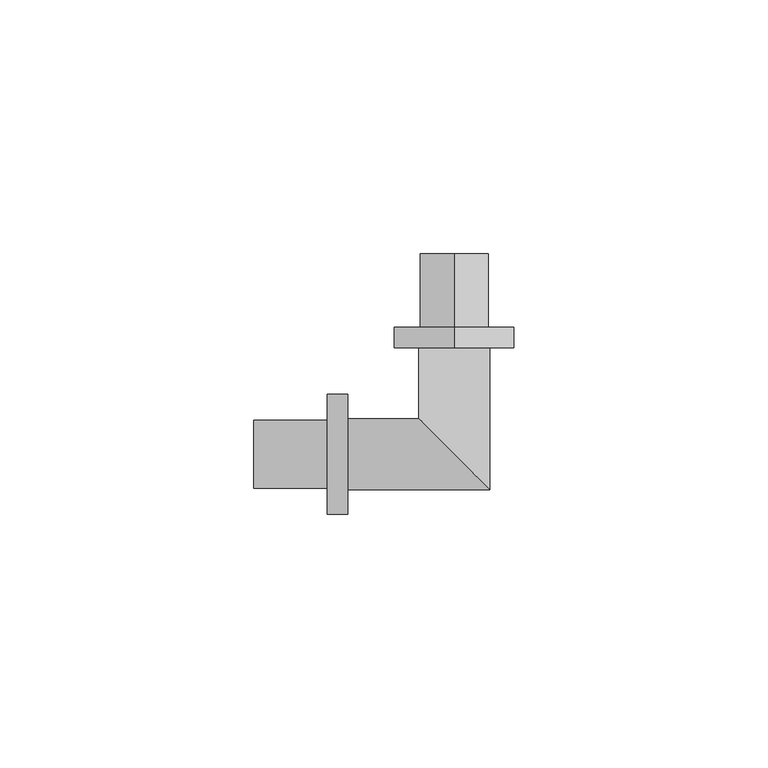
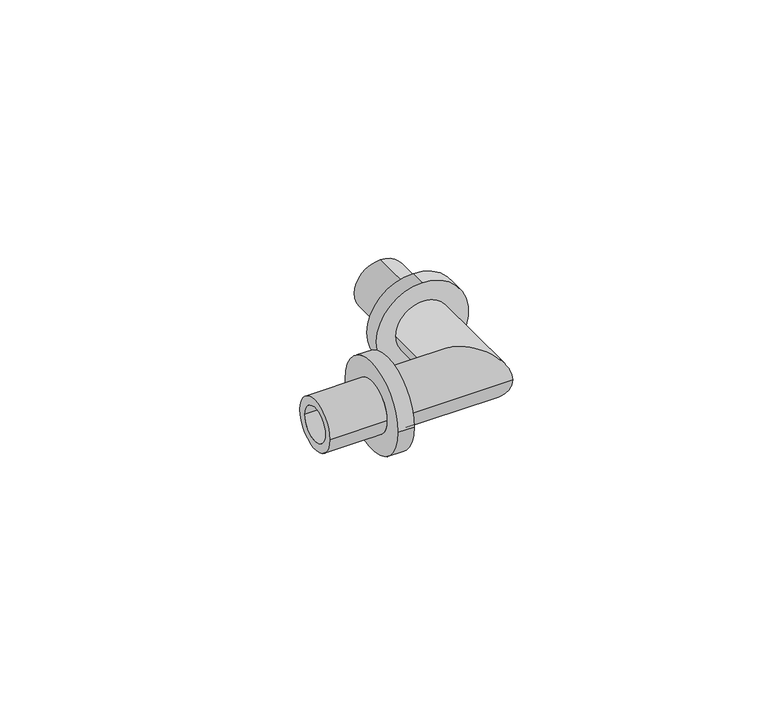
"""IFC4 building model written with IfcOpenShell, lengths in millimetres: pipe fitting geometry, RAUTITAN_Corner_PX : RTI PX C DE."""

from ifc_helpers import new_model, si_unit, frame, origin, place, context, project, spatial, polyline, circle_curve, ellipse_curve, source, transform, mapped, element, save
from ifc_brep_helpers import plane_surface, cylinder_surface, revolved_surface, advanced_brep


def pipe_fitting_495cc192(model_context):
    return source(origin(), model_context, "Body", "AdvancedBrep", [
        advanced_brep(
        [(0.0, 25.0, 11.8), (0.0, 25.0, -11.8), (0.0, 21.0, -11.8), (0.0, 21.0, 11.8), (0.0, 39.5, 6.7), (0.0, 39.5, -6.7), (0.0, 25.0, -6.7), (0.0, 25.0, 6.7), (0.0, 21.0, 4.5), (0.0, 21.0, -4.5), (0.0, 39.5, -4.5), (0.0, 39.5, 4.5)],
        [
            (0, 1, circle_curve(frame((0.0, 25.0, 0.0), z_axis=(0.0, -1.0, 0.0), x_axis=(0.0, 0.0, -1.0)), 11.8)),
            (1, 2),
            (2, 3, circle_curve(frame((0.0, 21.0, 0.0), z_axis=(0.0, 1.0, 0.0), x_axis=(0.0, 0.0, -1.0)), 11.8)),
            (3, 0),
            (4, 5, circle_curve(frame((0.0, 39.5, 0.0), z_axis=(0.0, -1.0, 0.0), x_axis=(0.0, 0.0, -1.0)), 6.7)),
            (5, 6),
            (6, 7, circle_curve(frame((0.0, 25.0, 0.0), z_axis=(0.0, 1.0, 0.0), x_axis=(0.0, 0.0, -1.0)), 6.7)),
            (7, 4),
            (8, 9, circle_curve(frame((0.0, 21.0, 0.0), z_axis=(0.0, -1.0, 0.0), x_axis=(0.0, 0.0, -1.0)), 4.5)),
            (9, 10),
            (10, 11, circle_curve(frame((0.0, 39.5, 0.0), z_axis=(0.0, 1.0, 0.0), x_axis=(0.0, 0.0, -1.0)), 4.5)),
            (11, 8),
            (1, 0, circle_curve(frame((0.0, 25.0, 0.0), z_axis=(0.0, -1.0, 0.0), x_axis=(0.0, 0.0, 1.0)), 11.8)),
            (3, 2, circle_curve(frame((0.0, 21.0, 0.0), z_axis=(0.0, 1.0, 0.0), x_axis=(0.0, 0.0, 1.0)), 11.8)),
            (6, 7, circle_curve(frame((0.0, 25.0, 0.0), z_axis=(0.0, -1.0, 0.0), x_axis=(0.0, 0.0, 1.0)), 6.7)),
            (5, 4, circle_curve(frame((0.0, 39.5, 0.0), z_axis=(0.0, -1.0, 0.0), x_axis=(0.0, 0.0, 1.0)), 6.7)),
            (10, 11, circle_curve(frame((0.0, 39.5, 0.0), z_axis=(0.0, -1.0, 0.0), x_axis=(0.0, 0.0, 1.0)), 4.5)),
            (9, 8, circle_curve(frame((0.0, 21.0, 0.0), z_axis=(0.0, -1.0, 0.0), x_axis=(0.0, 0.0, 1.0)), 4.5)),
        ],
        [
            cylinder_surface(frame((0.0, 21.0, 0.0), z_axis=(0.0, 1.0, 0.0), x_axis=(0.0, 0.0, -1.0)), 11.8),
            cylinder_surface(frame((0.0, 21.0, 0.0), z_axis=(0.0, 1.0, 0.0), x_axis=(0.0, 0.0, -1.0)), 6.7),
            revolved_surface(polyline([(0.0, 39.5, -4.5), (0.0, 21.0, -4.5)]), (0.0, 21.0, 0.0), (0.0, 1.0, 0.0)),
            cylinder_surface(frame((0.0, 21.0, 0.0), z_axis=(0.0, 1.0, 0.0), x_axis=(0.0, 0.0, 1.0)), 11.8),
            plane_surface(frame((0.0, 25.0, 0.0), z_axis=(0.0, 1.0, 0.0), x_axis=(0.0, 0.0, 1.0))),
            cylinder_surface(frame((0.0, 21.0, 0.0), z_axis=(0.0, 1.0, 0.0), x_axis=(0.0, 0.0, 1.0)), 6.7),
            plane_surface(frame((0.0, 39.5, 0.0), z_axis=(0.0, 1.0, 0.0), x_axis=(0.0, 0.0, 1.0))),
            revolved_surface(polyline([(0.0, 39.5, 4.5), (0.0, 21.0, 4.5)]), (0.0, 21.0, 0.0), (0.0, 1.0, 0.0)),
            plane_surface(frame((0.0, 21.0, 0.0), z_axis=(0.0, -1.0, 0.0), x_axis=(0.0, 0.0, 1.0))),
        ],
        [
            (0, [[1, 2, 3, 4]]),
            (1, [[5, 6, 7, 8]]),
            (2, [[9, 10, 11, 12]]),
            (3, [[13, -4, 14, -2]]),
            (4, [[-13, -1], [15, -7]]),
            (5, [[16, -8, -15, -6]]),
            (6, [[-16, -5], [17, -11]]),
            (7, [[18, -12, -17, -10]]),
            (8, [[-14, -3], [-18, -9]]),
        ],
    ),
        advanced_brep(
        [(-25.0, -11.8, 0.0), (-25.0, 11.8, 0.0), (-21.0, 11.8, 0.0), (-21.0, -11.8, 0.0), (-39.5, -6.7, 0.0), (-39.5, 6.7, 0.0), (-25.0, 6.7, 0.0), (-25.0, -6.7, 0.0), (-21.0, -4.5, 0.0), (-21.0, 4.5, 0.0), (-39.5, 4.5, 0.0), (-39.5, -4.5, 0.0)],
        [
            (0, 1, circle_curve(frame((-25.0, 0.0, 0.0), z_axis=(1.0, 0.0, 0.0), x_axis=(0.0, 1.0, 0.0)), 11.8)),
            (1, 2),
            (2, 3, circle_curve(frame((-21.0, 0.0, 0.0), z_axis=(-1.0, 0.0, 0.0), x_axis=(0.0, 1.0, 0.0)), 11.8)),
            (3, 0),
            (4, 5, circle_curve(frame((-39.5, 0.0, 0.0), z_axis=(1.0, 0.0, 0.0), x_axis=(0.0, 1.0, 0.0)), 6.7)),
            (5, 6),
            (6, 7, circle_curve(frame((-25.0, 0.0, 0.0), z_axis=(-1.0, 0.0, 0.0), x_axis=(0.0, 1.0, 0.0)), 6.7)),
            (7, 4),
            (8, 9, circle_curve(frame((-21.0, 0.0, 0.0), z_axis=(1.0, 0.0, 0.0), x_axis=(0.0, 1.0, 0.0)), 4.5)),
            (9, 10),
            (10, 11, circle_curve(frame((-39.5, 0.0, 0.0), z_axis=(-1.0, 0.0, 0.0), x_axis=(0.0, 1.0, 0.0)), 4.5)),
            (11, 8),
            (1, 0, circle_curve(frame((-25.0, 0.0, 0.0), z_axis=(1.0, 0.0, 0.0), x_axis=(0.0, -1.0, 0.0)), 11.8)),
            (3, 2, circle_curve(frame((-21.0, 0.0, 0.0), z_axis=(-1.0, 0.0, 0.0), x_axis=(0.0, -1.0, 0.0)), 11.8)),
            (6, 7, circle_curve(frame((-25.0, 0.0, 0.0), z_axis=(1.0, 0.0, 0.0), x_axis=(0.0, -1.0, 0.0)), 6.7)),
            (5, 4, circle_curve(frame((-39.5, 0.0, 0.0), z_axis=(1.0, 0.0, 0.0), x_axis=(0.0, -1.0, 0.0)), 6.7)),
            (10, 11, circle_curve(frame((-39.5, 0.0, 0.0), z_axis=(1.0, 0.0, 0.0), x_axis=(0.0, -1.0, 0.0)), 4.5)),
            (9, 8, circle_curve(frame((-21.0, 0.0, 0.0), z_axis=(1.0, 0.0, 0.0), x_axis=(0.0, -1.0, 0.0)), 4.5)),
        ],
        [
            cylinder_surface(frame((-21.0, 0.0, 0.0), z_axis=(-1.0, 0.0, 0.0), x_axis=(0.0, 1.0, 0.0)), 11.8),
            cylinder_surface(frame((-21.0, 0.0, 0.0), z_axis=(-1.0, 0.0, 0.0), x_axis=(0.0, 1.0, 0.0)), 6.7),
            revolved_surface(polyline([(-39.5, 4.5, 0.0), (-21.0, 4.5, 0.0)]), (-21.0, 0.0, 0.0), (-1.0, 0.0, 0.0)),
            cylinder_surface(frame((-21.0, 0.0, 0.0), z_axis=(-1.0, 0.0, 0.0), x_axis=(0.0, -1.0, 0.0)), 11.8),
            plane_surface(frame((-25.0, 0.0, 0.0), z_axis=(-1.0, 0.0, 0.0), x_axis=(0.0, -1.0, 0.0))),
            cylinder_surface(frame((-21.0, 0.0, 0.0), z_axis=(-1.0, 0.0, 0.0), x_axis=(0.0, -1.0, 0.0)), 6.7),
            plane_surface(frame((-39.5, 0.0, 0.0), z_axis=(-1.0, 0.0, 0.0), x_axis=(0.0, -1.0, 0.0))),
            revolved_surface(polyline([(-39.5, -4.5, 0.0), (-21.0, -4.5, 0.0)]), (-21.0, 0.0, 0.0), (-1.0, 0.0, 0.0)),
            plane_surface(frame((-21.0, 0.0, 0.0), z_axis=(1.0, 0.0, 0.0), x_axis=(0.0, -1.0, 0.0))),
        ],
        [
            (0, [[1, 2, 3, 4]]),
            (1, [[5, 6, 7, 8]]),
            (2, [[9, 10, 11, 12]]),
            (3, [[13, -4, 14, -2]]),
            (4, [[-13, -1], [15, -7]]),
            (5, [[16, -8, -15, -6]]),
            (6, [[-16, -5], [17, -11]]),
            (7, [[18, -12, -17, -10]]),
            (8, [[-14, -3], [-18, -9]]),
        ],
    ),
        advanced_brep(
        [(-21.0, -7.0, 0.0), (-21.0, 7.0, 0.0), (-21.0, -4.5, 0.0), (-21.0, 4.5, 0.0), (-4.5, 4.5, 0.0), (4.5, -4.5, 0.0), (7.0, 21.0, 0.0), (-7.0, 21.0, 0.0), (4.5, 21.0, 0.0), (-4.5, 21.0, 0.0), (7.0, -7.0, 0.0), (-7.0, 7.0, 0.0)],
        [
            (0, 1, circle_curve(frame((-21.0, 0.0, 0.0), z_axis=(-1.0, 0.0, 0.0), x_axis=(0.0, 1.0, 0.0)), 7.0)),
            (1, 0, circle_curve(frame((-21.0, 0.0, 0.0), z_axis=(-1.0, 0.0, 0.0), x_axis=(0.0, 1.0, 0.0)), 7.0)),
            (2, 3, circle_curve(frame((-21.0, 0.0, 0.0), z_axis=(1.0, 0.0, 0.0), x_axis=(0.0, 1.0, 0.0)), 4.5)),
            (3, 2, circle_curve(frame((-21.0, 0.0, 0.0), z_axis=(1.0, 0.0, 0.0), x_axis=(0.0, 1.0, 0.0)), 4.5)),
            (3, 4),
            (4, 5, ellipse_curve(frame((0.0, 0.0, 0.0), z_axis=(0.707106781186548, 0.7071067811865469, 0.0), x_axis=(0.7071067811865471, -0.7071067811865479, 0.0)), 6.363961, 4.5)),
            (5, 2),
            (5, 4, ellipse_curve(frame((0.0, 0.0, 0.0), z_axis=(0.707106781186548, 0.7071067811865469, 0.0), x_axis=(0.7071067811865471, -0.7071067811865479, 0.0)), 6.363961, 4.5)),
            (6, 7, circle_curve(frame((0.0, 21.0, 0.0), z_axis=(0.0, 1.0, 0.0), x_axis=(-1.0, 0.0, 0.0)), 7.0)),
            (7, 6, circle_curve(frame((0.0, 21.0, 0.0), z_axis=(0.0, 1.0, 0.0), x_axis=(-1.0, 0.0, 0.0)), 7.0)),
            (8, 9, circle_curve(frame((0.0, 21.0, 0.0), z_axis=(0.0, -1.0, 0.0), x_axis=(-1.0, 0.0, 0.0)), 4.5)),
            (9, 8, circle_curve(frame((0.0, 21.0, 0.0), z_axis=(0.0, -1.0, 0.0), x_axis=(-1.0, 0.0, 0.0)), 4.5)),
            (4, 9),
            (8, 5),
            (0, 10),
            (10, 11, ellipse_curve(frame((0.0, 0.0, 0.0), z_axis=(-0.707106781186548, -0.7071067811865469, 0.0), x_axis=(-0.7071067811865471, 0.7071067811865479, 0.0)), 9.8994949, 7.0)),
            (11, 1),
            (11, 10, ellipse_curve(frame((0.0, 0.0, 0.0), z_axis=(-0.707106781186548, -0.7071067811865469, 0.0), x_axis=(-0.7071067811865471, 0.7071067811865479, 0.0)), 9.8994949, 7.0)),
            (10, 6),
            (7, 11),
        ],
        [
            plane_surface(frame((-21.0, 0.0, 0.0), z_axis=(-1.0, 0.0, 0.0), x_axis=(0.0, 0.0, 1.0))),
            revolved_surface(polyline([(4.5, 4.5, 0.0), (-21.0, 4.5, 0.0)]), (-21.0, 0.0, 0.0), (1.0, 0.0, 0.0)),
            plane_surface(frame((0.0, 21.0, 0.0), z_axis=(0.0, 1.0, 0.0), x_axis=(0.0, 0.0, 1.0))),
            revolved_surface(polyline([(-4.5, 21.0, 0.0), (-4.5, -4.5, 0.0)]), (0.0, 0.0, 0.0), (0.0, 1.0, 0.0)),
            cylinder_surface(frame((-21.0, 0.0, 0.0), z_axis=(-1.0, 0.0, 0.0), x_axis=(0.0, 1.0, 0.0)), 7.0),
            cylinder_surface(frame((0.0, 0.0, 0.0), z_axis=(0.0, -1.0, 0.0), x_axis=(-1.0, 0.0, 0.0)), 7.0),
        ],
        [
            (0, [[1, 2], [3, 4]]),
            (1, [[-4, 5, 6, 7]]),
            (1, [[-3, -7, 8, -5]]),
            (2, [[9, 10], [11, 12]]),
            (3, [[-6, 13, -11, 14]]),
            (3, [[-8, -14, -12, -13]]),
            (4, [[-1, 15, 16, 17]]),
            (4, [[-2, -17, 18, -15]]),
            (5, [[-16, 19, -10, 20]]),
            (5, [[-18, -20, -9, -19]]),
        ],
    ),
    ])


if __name__ == "__main__":
    model = new_model("IFC4")
    model_context = context("Model", 3, world=origin())
    ifc_project = project(units=[si_unit("LENGTHUNIT", "METRE", prefix="MILLI")], contexts=[model_context])
    site = spatial("IfcSite", under=ifc_project)
    building = spatial("IfcBuilding", under=site)
    placement = place(None, origin())
    pipe_fitting_shape = pipe_fitting_495cc192(model_context)
    element("IfcPipeFitting", 1, ObjectType="RAUTITAN_Corner_PX : RTI PX C DE", at=placement, inside=building, context=model_context, shape_type="MappedRepresentation", body=[
        mapped(pipe_fitting_shape, transform((0.0, 0.0, 0.0), x_axis=(1.0, 0.0, 0.0), y_axis=(0.0, 1.0, 0.0), z_axis=(0.0, 0.0, 1.0))),
    ])
    save(model, "model.ifc")
